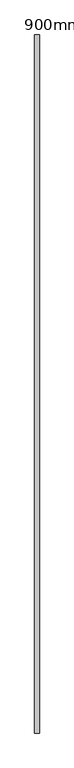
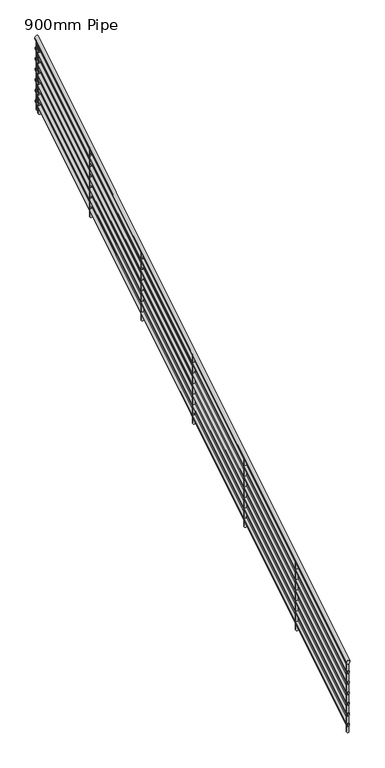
"""IFC4 building model written with IfcOpenShell, lengths in millimetres: railing geometry, 900mm Pipe."""

import ifcopenshell
import ifcopenshell.guid

model = None  # the IFC model being written
_history = None  # IfcOwnerHistory: only IFC2X3 demands one
_inside = {}  # id of a spatial element -> (the spatial element, [elements in it])
_under = {}  # id of a project, library or spatial element -> (it, [spatial elements below it])
_declared = {}  # id of a project -> (the project, [libraries it declares])
_typed = {}  # id of a type object -> (the type object, [elements of that type])
_made_of = {}  # id of a material, layer set ... -> (it, [elements and type objects made of it])


def new_model(schema):
    """Start an empty IFC model of exactly this schema.

    Asked for "IFC4X3", IfcOpenShell would pick the latest addendum, in which some entities
    have other attributes; the version numbers below select the first issue.
    IFC2X3 requires an IfcOwnerHistory on every rooted entity: one is made here for all.
    """
    global model, _history
    if schema == "IFC4X3":
        model = ifcopenshell.file(schema_version=(4, 3, 0, 0))
    else:
        model = ifcopenshell.file(schema=schema)
    _inside.clear()
    _under.clear()
    _declared.clear()
    _typed.clear()
    _made_of.clear()
    _history = None
    if model.schema == "IFC2X3":
        org = make("IfcOrganization", Name="unknown")
        user = make(
            "IfcPersonAndOrganization",
            ThePerson=make("IfcPerson", FamilyName="unknown"),
            TheOrganization=org,
        )
        app = make(
            "IfcApplication",
            ApplicationDeveloper=org,
            Version="unknown",
            ApplicationFullName="unknown",
            ApplicationIdentifier="unknown",
        )
        _history = make(
            "IfcOwnerHistory",
            OwningUser=user,
            OwningApplication=app,
            ChangeAction="ADDED",
            CreationDate=0,
        )
    return model


def make(cls, **values):
    """One entity of the class cls with the attributes given. An attribute that is None is left unset."""
    return model.create_entity(
        cls, **{name: value for name, value in values.items() if value is not None}
    )


def rooted(cls, **values):
    """An entity with a GlobalId (a new one), such as an element, a storey or a relation."""
    return make(cls, GlobalId=ifcopenshell.guid.new(), OwnerHistory=_history, **values)


def si_unit(unit_type, name, prefix=None):
    """IfcSIUnit, for example si_unit("LENGTHUNIT", "METRE", prefix="MILLI")."""
    return make("IfcSIUnit", UnitType=unit_type, Prefix=prefix, Name=name)


def assignment(units):
    """IfcUnitAssignment: the units of a project."""
    return None if units is None else make("IfcUnitAssignment", Units=units)


def point(xyz):
    """IfcCartesianPoint."""
    return None if xyz is None else make("IfcCartesianPoint", Coordinates=xyz)


def direction(xyz):
    """IfcDirection."""
    return None if xyz is None else make("IfcDirection", DirectionRatios=xyz)


def frame(location, z_axis=None, x_axis=None):
    """IfcAxis2Placement3D, a coordinate frame: its origin and axes. An axis left out is left unset."""
    return make(
        "IfcAxis2Placement3D",
        Location=point(location),
        Axis=direction(z_axis),
        RefDirection=direction(x_axis),
    )


def origin():
    """The frame at (0, 0, 0) with its axes left unset."""
    return frame((0.0, 0.0, 0.0))


def place(relative_to, where):
    """IfcLocalPlacement: puts the frame where relative to a parent placement (None: the world)."""
    return make(
        "IfcLocalPlacement", PlacementRelTo=relative_to, RelativePlacement=where
    )


def context(
    kind, dimensions, precision=None, world=None, true_north=None, identifier=None
):
    """IfcGeometricRepresentationContext, for example the 3D "Model" context."""
    return make(
        "IfcGeometricRepresentationContext",
        ContextIdentifier=identifier,
        ContextType=kind,
        CoordinateSpaceDimension=dimensions,
        Precision=precision,
        WorldCoordinateSystem=world,
        TrueNorth=true_north,
    )


def project(units=None, contexts=None):
    """IfcProject with its units and contexts."""
    return rooted(
        "IfcProject",
        Name="project",
        RepresentationContexts=contexts,
        UnitsInContext=assignment(units),
    )


def spatial(cls, under=None, at=None, **own):
    """A site, building, storey or space (cls), placed at a placement, below another one or the project."""
    s = rooted(cls, ObjectPlacement=at, **own)
    if under is not None:
        _under.setdefault(under.id(), (under, []))[1].append(s)
    return s


def ellipse_curve(where, semi_axis1, semi_axis2):
    """IfcEllipse in the frame where."""
    return make(
        "IfcEllipse", Position=where, SemiAxis1=semi_axis1, SemiAxis2=semi_axis2
    )


def shape(context_of_items, identifier, shape_type, items):
    """IfcShapeRepresentation: the items that make up one representation, for example the "Body"."""
    return make(
        "IfcShapeRepresentation",
        ContextOfItems=context_of_items,
        RepresentationIdentifier=identifier,
        RepresentationType=shape_type,
        Items=items,
    )


def source(mapping_origin, context_of_items, identifier, shape_type, items):
    """IfcRepresentationMap: a shape defined once, which mapped items show again and again."""
    return make(
        "IfcRepresentationMap",
        MappingOrigin=mapping_origin,
        MappedRepresentation=shape(context_of_items, identifier, shape_type, items),
    )


def transform(
    local_origin,
    x_axis=None,
    y_axis=None,
    z_axis=None,
    scale=None,
    scale2=None,
    scale3=None,
    uniform=True,
):
    """IfcCartesianTransformationOperator3D, or its non-uniform kind. x_axis, y_axis, z_axis: its Axis1, 2, 3."""
    if uniform:
        return make(
            "IfcCartesianTransformationOperator3D",
            Axis1=direction(x_axis),
            Axis2=direction(y_axis),
            LocalOrigin=point(local_origin),
            Scale=scale,
            Axis3=direction(z_axis),
        )
    return make(
        "IfcCartesianTransformationOperator3DnonUniform",
        Axis1=direction(x_axis),
        Axis2=direction(y_axis),
        LocalOrigin=point(local_origin),
        Scale=scale,
        Axis3=direction(z_axis),
        Scale2=scale2,
        Scale3=scale3,
    )


def mapped(mapping_source, mapping_target):
    """IfcMappedItem: shows the shape of a source again, moved by a transform."""
    return make(
        "IfcMappedItem", MappingSource=mapping_source, MappingTarget=mapping_target
    )


def made_of(thing, what):
    """Note that an element or type object is made of a material, layer set ...; save() writes the relation."""
    if what is not None:
        _made_of.setdefault(what.id(), (what, []))[1].append(thing)
    return thing


def element(
    cls,
    number,
    at=None,
    inside=None,
    cuts=None,
    type_object=None,
    material=None,
    context=None,
    identifier="Body",
    shape_type=None,
    held_by="IfcProductDefinitionShape",
    body=None,
    shapes=None,
    **own,
):
    """One element of the class cls, such as IfcWall. Its Tag is "e" and its number.

    at: its placement. inside: the storey or other place that contains it. cuts: it is an
    opening in that element (IfcRelVoidsElement). A single representation is given by context,
    identifier, shape_type and body (its items); several are given by shapes. held_by: the class
    of the entity that holds the representations. save() writes the other relations.
    """
    e = rooted(cls, Tag="e%d" % number, ObjectPlacement=at, **own)
    if body is not None:
        shapes = [shape(context, identifier, shape_type, body)]
    if shapes is not None:
        e.Representation = make(held_by, Representations=shapes)
    if inside is not None:
        _inside.setdefault(inside.id(), (inside, []))[1].append(e)
    if cuts is not None:
        rooted(
            "IfcRelVoidsElement", RelatingBuildingElement=cuts, RelatedOpeningElement=e
        )
    if type_object is not None:
        _typed.setdefault(type_object.id(), (type_object, []))[1].append(e)
    return made_of(e, material)


def aggregate(whole, parts):
    """IfcRelAggregates: a whole, such as a stair, and the parts it consists of."""
    return rooted("IfcRelAggregates", RelatingObject=whole, RelatedObjects=parts)


def save(model, path):
    """Write the relations noted so far, then the file.

    IfcRelAggregates (storeys below a building ...), IfcRelContainedInSpatialStructure (elements
    in a storey), IfcRelDefinesByType, IfcRelAssociatesMaterial and IfcRelDeclares: one each for
    every whole, place, type object, material and project.
    """
    for whole, parts in _under.values():
        aggregate(whole, parts)
    for where, things in _inside.values():
        rooted(
            "IfcRelContainedInSpatialStructure",
            RelatedElements=things,
            RelatingStructure=where,
        )
    for kind, things in _typed.values():
        rooted("IfcRelDefinesByType", RelatedObjects=things, RelatingType=kind)
    for what, things in _made_of.values():
        rooted("IfcRelAssociatesMaterial", RelatedObjects=things, RelatingMaterial=what)
    for by, libraries in _declared.values():
        rooted("IfcRelDeclares", RelatingContext=by, RelatedDefinitions=libraries)
    model.write(path)


def plane_surface(at):
    """IfcPlane: the flat surface through the origin of the frame at, square to its z axis."""
    return make("IfcPlane", Position=at)


def cylinder_surface(at, radius):
    """IfcCylindricalSurface: all points at the distance radius from the z axis of the frame at."""
    return make("IfcCylindricalSurface", Position=at, Radius=radius)


def advanced_brep(points, edges, surfaces, faces):
    """IfcAdvancedBrep: a solid bounded by faces that lie on surfaces and meet in shared edges.

    An edge is (start, end): straight between two places in points (the first is 0);
    or (start, end, curve); or (start, end, curve, False) where it runs against its curve.
    A face is (place in surfaces, loops), or (place, loops, False) where it looks against
    its surface's normal. A loop lists edges by number (the first is 1), with a minus sign
    where the edge is run from its end to its start. The first loop is the outer one.
    """
    corners = [point(p) for p in points]
    vertices = [make("IfcVertexPoint", VertexGeometry=c) for c in corners]
    made = []
    for start, end, *more in edges:
        made.append(
            make(
                "IfcEdgeCurve",
                EdgeStart=vertices[start],
                EdgeEnd=vertices[end],
                EdgeGeometry=more[0] if more else make("IfcPolyline", Points=[corners[start], corners[end]]),
                SameSense=more[1] if len(more) > 1 else True,
            )
        )
    hull = []
    for where, loops, *sense in faces:
        bounds = []
        for j, loop in enumerate(loops):
            ring = [make("IfcOrientedEdge", EdgeElement=made[abs(k) - 1], Orientation=k > 0) for k in loop]
            bounds.append(
                make(
                    "IfcFaceOuterBound" if j == 0 else "IfcFaceBound",
                    Bound=make("IfcEdgeLoop", EdgeList=ring),
                    Orientation=True,
                )
            )
        hull.append(make("IfcAdvancedFace", Bounds=bounds, FaceSurface=surfaces[where], SameSense=sense[0] if sense else True))
    return make("IfcAdvancedBrep", Outer=make("IfcClosedShell", CfsFaces=hull))


def railing_900mm_pipe_2b441174(model_context):
    return source(origin(), model_context, "Body", "AdvancedBrep", [
        advanced_brep(
        [(4541.7758541, -3889.7600263, 1046.0688642), (4501.7758541, -3889.7600263, 1046.0688642), (4541.7758541, 2160.2399737, 4776.5036468), (4501.7758541, 2160.2399737, 4776.5036468)],
        [
            (0, 1, ellipse_curve(frame((4521.7758541, -3889.7600263, 1046.0688642), z_axis=(0.0, -1.0, 0.0), x_axis=(0.0, 0.0, -1.0)), 23.4963532, 20.0)),
            (1, 0, ellipse_curve(frame((4521.7758541, -3889.7600263, 1046.0688642), z_axis=(0.0, -1.0, 0.0), x_axis=(0.0, 0.0, -1.0)), 23.4963532, 20.0)),
            (2, 3, ellipse_curve(frame((4521.7758541, 2160.2399737, 4776.5036468), z_axis=(0.0, 1.0, 0.0), x_axis=(0.0, 0.0, -1.0)), 23.4963532, 20.0)),
            (3, 2, ellipse_curve(frame((4521.7758541, 2160.2399737, 4776.5036468), z_axis=(0.0, 1.0, 0.0), x_axis=(0.0, 0.0, -1.0)), 23.4963532, 20.0)),
            (0, 2),
            (3, 1),
        ],
        [
            plane_surface(frame((4521.7758541, -3889.7600263, 1069.5652174), z_axis=(0.0, -1.0, 0.0), x_axis=(0.0, 0.0, 1.0))),
            plane_surface(frame((4521.7758541, 2160.2399737, 4800.0), z_axis=(0.0, 1.0, 0.0), x_axis=(0.0, 0.0, 1.0))),
            cylinder_surface(frame((4521.7758541, -3879.2630647, 1052.541299), z_axis=(0.0, -0.851195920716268, -0.524848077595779), x_axis=(-1.0, 0.0, 0.0)), 20.0),
        ],
        [
            (0, [[1, 2]]),
            (1, [[3, 4]]),
            (2, [[-1, 5, -4, 6]]),
            (2, [[-2, -6, -3, -5]]),
        ],
    ),
        advanced_brep(
        [(4536.7758541, -3889.7600263, 926.9429525), (4506.7758541, -3889.7600263, 926.9429525), (4536.7758541, 2160.2399737, 4657.3777351), (4506.7758541, 2160.2399737, 4657.3777351)],
        [
            (0, 1, ellipse_curve(frame((4521.7758541, -3889.7600263, 926.9429525), z_axis=(0.0, -1.0, 0.0), x_axis=(0.0, 0.0, -1.0)), 17.6222649, 15.0)),
            (1, 0, ellipse_curve(frame((4521.7758541, -3889.7600263, 926.9429525), z_axis=(0.0, -1.0, 0.0), x_axis=(0.0, 0.0, -1.0)), 17.6222649, 15.0)),
            (2, 3, ellipse_curve(frame((4521.7758541, 2160.2399737, 4657.3777351), z_axis=(0.0, 1.0, 0.0), x_axis=(0.0, 0.0, -1.0)), 17.6222649, 15.0)),
            (3, 2, ellipse_curve(frame((4521.7758541, 2160.2399737, 4657.3777351), z_axis=(0.0, 1.0, 0.0), x_axis=(0.0, 0.0, -1.0)), 17.6222649, 15.0)),
            (0, 2),
            (3, 1),
        ],
        [
            plane_surface(frame((4521.7758541, -3889.7600263, 944.5652174), z_axis=(0.0, -1.0, 0.0), x_axis=(0.0, 0.0, 1.0))),
            plane_surface(frame((4521.7758541, 2160.2399737, 4675.0), z_axis=(0.0, 1.0, 0.0), x_axis=(0.0, 0.0, 1.0))),
            cylinder_surface(frame((4521.7758541, -3881.8873051, 931.7972786), z_axis=(0.0, -0.851195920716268, -0.524848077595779), x_axis=(-1.0, 0.0, 0.0)), 15.0),
        ],
        [
            (0, [[1, 2]]),
            (1, [[3, 4]]),
            (2, [[-1, 5, -4, 6]]),
            (2, [[-2, -6, -3, -5]]),
        ],
    ),
        advanced_brep(
        [(4536.7758541, -3889.7600263, 801.9429525), (4506.7758541, -3889.7600263, 801.9429525), (4536.7758541, 2160.2399737, 4532.3777351), (4506.7758541, 2160.2399737, 4532.3777351)],
        [
            (0, 1, ellipse_curve(frame((4521.7758541, -3889.7600263, 801.9429525), z_axis=(0.0, -1.0, 0.0), x_axis=(0.0, 0.0, -1.0)), 17.6222649, 15.0)),
            (1, 0, ellipse_curve(frame((4521.7758541, -3889.7600263, 801.9429525), z_axis=(0.0, -1.0, 0.0), x_axis=(0.0, 0.0, -1.0)), 17.6222649, 15.0)),
            (2, 3, ellipse_curve(frame((4521.7758541, 2160.2399737, 4532.3777351), z_axis=(0.0, 1.0, 0.0), x_axis=(0.0, 0.0, -1.0)), 17.6222649, 15.0)),
            (3, 2, ellipse_curve(frame((4521.7758541, 2160.2399737, 4532.3777351), z_axis=(0.0, 1.0, 0.0), x_axis=(0.0, 0.0, -1.0)), 17.6222649, 15.0)),
            (0, 2),
            (3, 1),
        ],
        [
            plane_surface(frame((4521.7758541, -3889.7600263, 819.5652174), z_axis=(0.0, -1.0, 0.0), x_axis=(0.0, 0.0, 1.0))),
            plane_surface(frame((4521.7758541, 2160.2399737, 4550.0), z_axis=(0.0, 1.0, 0.0), x_axis=(0.0, 0.0, 1.0))),
            cylinder_surface(frame((4521.7758541, -3881.8873051, 806.7972786), z_axis=(0.0, -0.851195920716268, -0.524848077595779), x_axis=(-1.0, 0.0, 0.0)), 15.0),
        ],
        [
            (0, [[1, 2]]),
            (1, [[3, 4]]),
            (2, [[-1, 5, -4, 6]]),
            (2, [[-2, -6, -3, -5]]),
        ],
    ),
        advanced_brep(
        [(4536.7758541, -3889.7600263, 676.9429525), (4506.7758541, -3889.7600263, 676.9429525), (4536.7758541, 2160.2399737, 4407.3777351), (4506.7758541, 2160.2399737, 4407.3777351)],
        [
            (0, 1, ellipse_curve(frame((4521.7758541, -3889.7600263, 676.9429525), z_axis=(0.0, -1.0, 0.0), x_axis=(0.0, 0.0, -1.0)), 17.6222649, 15.0)),
            (1, 0, ellipse_curve(frame((4521.7758541, -3889.7600263, 676.9429525), z_axis=(0.0, -1.0, 0.0), x_axis=(0.0, 0.0, -1.0)), 17.6222649, 15.0)),
            (2, 3, ellipse_curve(frame((4521.7758541, 2160.2399737, 4407.3777351), z_axis=(0.0, 1.0, 0.0), x_axis=(0.0, 0.0, -1.0)), 17.6222649, 15.0)),
            (3, 2, ellipse_curve(frame((4521.7758541, 2160.2399737, 4407.3777351), z_axis=(0.0, 1.0, 0.0), x_axis=(0.0, 0.0, -1.0)), 17.6222649, 15.0)),
            (0, 2),
            (3, 1),
        ],
        [
            plane_surface(frame((4521.7758541, -3889.7600263, 694.5652174), z_axis=(0.0, -1.0, 0.0), x_axis=(0.0, 0.0, 1.0))),
            plane_surface(frame((4521.7758541, 2160.2399737, 4425.0), z_axis=(0.0, 1.0, 0.0), x_axis=(0.0, 0.0, 1.0))),
            cylinder_surface(frame((4521.7758541, -3881.8873051, 681.7972786), z_axis=(0.0, -0.851195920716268, -0.524848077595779), x_axis=(-1.0, 0.0, 0.0)), 15.0),
        ],
        [
            (0, [[1, 2]]),
            (1, [[3, 4]]),
            (2, [[-1, 5, -4, 6]]),
            (2, [[-2, -6, -3, -5]]),
        ],
    ),
        advanced_brep(
        [(4536.7758541, -3889.7600263, 551.9429525), (4506.7758541, -3889.7600263, 551.9429525), (4536.7758541, 2160.2399737, 4282.3777351), (4506.7758541, 2160.2399737, 4282.3777351)],
        [
            (0, 1, ellipse_curve(frame((4521.7758541, -3889.7600263, 551.9429525), z_axis=(0.0, -1.0, 0.0), x_axis=(0.0, 0.0, -1.0)), 17.6222649, 15.0)),
            (1, 0, ellipse_curve(frame((4521.7758541, -3889.7600263, 551.9429525), z_axis=(0.0, -1.0, 0.0), x_axis=(0.0, 0.0, -1.0)), 17.6222649, 15.0)),
            (2, 3, ellipse_curve(frame((4521.7758541, 2160.2399737, 4282.3777351), z_axis=(0.0, 1.0, 0.0), x_axis=(0.0, 0.0, -1.0)), 17.6222649, 15.0)),
            (3, 2, ellipse_curve(frame((4521.7758541, 2160.2399737, 4282.3777351), z_axis=(0.0, 1.0, 0.0), x_axis=(0.0, 0.0, -1.0)), 17.6222649, 15.0)),
            (0, 2),
            (3, 1),
        ],
        [
            plane_surface(frame((4521.7758541, -3889.7600263, 569.5652174), z_axis=(0.0, -1.0, 0.0), x_axis=(0.0, 0.0, 1.0))),
            plane_surface(frame((4521.7758541, 2160.2399737, 4300.0), z_axis=(0.0, 1.0, 0.0), x_axis=(0.0, 0.0, 1.0))),
            cylinder_surface(frame((4521.7758541, -3881.8873051, 556.7972786), z_axis=(0.0, -0.851195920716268, -0.524848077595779), x_axis=(-1.0, 0.0, 0.0)), 15.0),
        ],
        [
            (0, [[1, 2]]),
            (1, [[3, 4]]),
            (2, [[-1, 5, -4, 6]]),
            (2, [[-2, -6, -3, -5]]),
        ],
    ),
        advanced_brep(
        [(4536.7758541, -3889.7600263, 426.9429525), (4506.7758541, -3889.7600263, 426.9429525), (4536.7758541, 2160.2399737, 4157.3777351), (4506.7758541, 2160.2399737, 4157.3777351)],
        [
            (0, 1, ellipse_curve(frame((4521.7758541, -3889.7600263, 426.9429525), z_axis=(0.0, -1.0, 0.0), x_axis=(0.0, 0.0, -1.0)), 17.6222649, 15.0)),
            (1, 0, ellipse_curve(frame((4521.7758541, -3889.7600263, 426.9429525), z_axis=(0.0, -1.0, 0.0), x_axis=(0.0, 0.0, -1.0)), 17.6222649, 15.0)),
            (2, 3, ellipse_curve(frame((4521.7758541, 2160.2399737, 4157.3777351), z_axis=(0.0, 1.0, 0.0), x_axis=(0.0, 0.0, -1.0)), 17.6222649, 15.0)),
            (3, 2, ellipse_curve(frame((4521.7758541, 2160.2399737, 4157.3777351), z_axis=(0.0, 1.0, 0.0), x_axis=(0.0, 0.0, -1.0)), 17.6222649, 15.0)),
            (0, 2),
            (3, 1),
        ],
        [
            plane_surface(frame((4521.7758541, -3889.7600263, 444.5652174), z_axis=(0.0, -1.0, 0.0), x_axis=(0.0, 0.0, 1.0))),
            plane_surface(frame((4521.7758541, 2160.2399737, 4175.0), z_axis=(0.0, 1.0, 0.0), x_axis=(0.0, 0.0, 1.0))),
            cylinder_surface(frame((4521.7758541, -3881.8873051, 431.7972786), z_axis=(0.0, -0.851195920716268, -0.524848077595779), x_axis=(-1.0, 0.0, 0.0)), 15.0),
        ],
        [
            (0, [[1, 2]]),
            (1, [[3, 4]]),
            (2, [[-1, 5, -4, 6]]),
            (2, [[-2, -6, -3, -5]]),
        ],
    ),
        advanced_brep(
        [(4536.7758541, -3889.7600263, 301.9429525), (4506.7758541, -3889.7600263, 301.9429525), (4536.7758541, 2160.2399737, 4032.3777351), (4506.7758541, 2160.2399737, 4032.3777351)],
        [
            (0, 1, ellipse_curve(frame((4521.7758541, -3889.7600263, 301.9429525), z_axis=(0.0, -1.0, 0.0), x_axis=(0.0, 0.0, -1.0)), 17.6222649, 15.0)),
            (1, 0, ellipse_curve(frame((4521.7758541, -3889.7600263, 301.9429525), z_axis=(0.0, -1.0, 0.0), x_axis=(0.0, 0.0, -1.0)), 17.6222649, 15.0)),
            (2, 3, ellipse_curve(frame((4521.7758541, 2160.2399737, 4032.3777351), z_axis=(0.0, 1.0, 0.0), x_axis=(0.0, 0.0, -1.0)), 17.6222649, 15.0)),
            (3, 2, ellipse_curve(frame((4521.7758541, 2160.2399737, 4032.3777351), z_axis=(0.0, 1.0, 0.0), x_axis=(0.0, 0.0, -1.0)), 17.6222649, 15.0)),
            (0, 2),
            (3, 1),
        ],
        [
            plane_surface(frame((4521.7758541, -3889.7600263, 319.5652174), z_axis=(0.0, -1.0, 0.0), x_axis=(0.0, 0.0, 1.0))),
            plane_surface(frame((4521.7758541, 2160.2399737, 4050.0), z_axis=(0.0, 1.0, 0.0), x_axis=(0.0, 0.0, 1.0))),
            cylinder_surface(frame((4521.7758541, -3881.8873051, 306.7972786), z_axis=(0.0, -0.851195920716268, -0.524848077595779), x_axis=(-1.0, 0.0, 0.0)), 15.0),
        ],
        [
            (0, [[1, 2]]),
            (1, [[3, 4]]),
            (2, [[-1, 5, -4, 6]]),
            (2, [[-2, -6, -3, -5]]),
        ],
    ),
        advanced_brep(
        [(4509.2758541, 2110.2399737, 4722.1772541), (4534.2758541, 2110.2399737, 4722.1772541), (4534.2758541, 2110.2399737, 3913.2082186), (4509.2758541, 2110.2399737, 3913.2082186)],
        [
            (0, 1, ellipse_curve(frame((4521.7758541, 2110.2399737, 4722.1772541), z_axis=(0.0, 0.5248480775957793, -0.8511959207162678), x_axis=(0.0, 0.8511959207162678, 0.524848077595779)), 14.6852208, 12.5)),
            (1, 2),
            (2, 3, ellipse_curve(frame((4521.7758541, 2110.2399737, 3913.2082186), z_axis=(0.0, -0.5248480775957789, 0.851195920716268), x_axis=(0.0, 0.851195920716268, 0.5248480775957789)), 14.6852208, 12.5)),
            (3, 0),
            (3, 2, ellipse_curve(frame((4521.7758541, 2110.2399737, 3913.2082186), z_axis=(0.0, -0.5248480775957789, 0.851195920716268), x_axis=(0.0, 0.851195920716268, 0.5248480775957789)), 14.6852208, 12.5)),
            (1, 0, ellipse_curve(frame((4521.7758541, 2110.2399737, 4722.1772541), z_axis=(0.0, 0.5248480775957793, -0.8511959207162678), x_axis=(0.0, 0.8511959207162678, 0.524848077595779)), 14.6852208, 12.5)),
        ],
        [
            cylinder_surface(frame((4521.7758541, 2110.2399737, 3813.2082186), z_axis=(0.0, 0.0, 1.0), x_axis=(1.0, 0.0, 0.0)), 12.5),
            plane_surface(frame((4546.7758541, 2135.2399737, 4737.5922738), z_axis=(0.0, -0.5248480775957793, 0.8511959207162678), x_axis=(-1.0, 0.0, 0.0))),
            plane_surface(frame((4546.7758541, 2085.2399737, 3897.7931988), z_axis=(0.0, 0.5248480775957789, -0.851195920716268), x_axis=(-1.0, 0.0, 0.0))),
        ],
        [
            (0, [[1, 2, 3, 4]]),
            (0, [[5, -2, 6, -4]]),
            (1, [[-6, -1]]),
            (2, [[-5, -3]]),
        ],
    ),
        advanced_brep(
        [(4509.2758541, 1110.2399737, 4105.5764635), (4534.2758541, 1110.2399737, 4105.5764635), (4534.2758541, 1110.2399737, 3296.6074281), (4509.2758541, 1110.2399737, 3296.6074281)],
        [
            (0, 1, ellipse_curve(frame((4521.7758541, 1110.2399737, 4105.5764635), z_axis=(0.0, 0.5248480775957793, -0.8511959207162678), x_axis=(0.0, 0.8511959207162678, 0.524848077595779)), 14.6852208, 12.5)),
            (1, 2),
            (2, 3, ellipse_curve(frame((4521.7758541, 1110.2399737, 3296.6074281), z_axis=(0.0, -0.5248480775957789, 0.851195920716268), x_axis=(0.0, 0.851195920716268, 0.5248480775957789)), 14.6852208, 12.5)),
            (3, 0),
            (3, 2, ellipse_curve(frame((4521.7758541, 1110.2399737, 3296.6074281), z_axis=(0.0, -0.5248480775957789, 0.851195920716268), x_axis=(0.0, 0.851195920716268, 0.5248480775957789)), 14.6852208, 12.5)),
            (1, 0, ellipse_curve(frame((4521.7758541, 1110.2399737, 4105.5764635), z_axis=(0.0, 0.5248480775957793, -0.8511959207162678), x_axis=(0.0, 0.8511959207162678, 0.524848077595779)), 14.6852208, 12.5)),
        ],
        [
            cylinder_surface(frame((4521.7758541, 1110.2399737, 3196.6074281), z_axis=(0.0, 0.0, 1.0), x_axis=(1.0, 0.0, 0.0)), 12.5),
            plane_surface(frame((4546.7758541, 1135.2399737, 4120.9914833), z_axis=(0.0, -0.5248480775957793, 0.8511959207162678), x_axis=(-1.0, 0.0, 0.0))),
            plane_surface(frame((4546.7758541, 1085.2399737, 3281.1924083), z_axis=(0.0, 0.5248480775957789, -0.851195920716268), x_axis=(-1.0, 0.0, 0.0))),
        ],
        [
            (0, [[1, 2, 3, 4]]),
            (0, [[5, -2, 6, -4]]),
            (1, [[-6, -1]]),
            (2, [[-5, -3]]),
        ],
    ),
        advanced_brep(
        [(4509.2758541, 110.2399737, 3488.975673), (4534.2758541, 110.2399737, 3488.975673), (4534.2758541, 110.2399737, 2680.0066376), (4509.2758541, 110.2399737, 2680.0066376)],
        [
            (0, 1, ellipse_curve(frame((4521.7758541, 110.2399737, 3488.975673), z_axis=(0.0, 0.5248480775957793, -0.8511959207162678), x_axis=(0.0, 0.8511959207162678, 0.524848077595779)), 14.6852208, 12.5)),
            (1, 2),
            (2, 3, ellipse_curve(frame((4521.7758541, 110.2399737, 2680.0066376), z_axis=(0.0, -0.5248480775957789, 0.851195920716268), x_axis=(0.0, 0.851195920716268, 0.5248480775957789)), 14.6852208, 12.5)),
            (3, 0),
            (3, 2, ellipse_curve(frame((4521.7758541, 110.2399737, 2680.0066376), z_axis=(0.0, -0.5248480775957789, 0.851195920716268), x_axis=(0.0, 0.851195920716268, 0.5248480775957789)), 14.6852208, 12.5)),
            (1, 0, ellipse_curve(frame((4521.7758541, 110.2399737, 3488.975673), z_axis=(0.0, 0.5248480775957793, -0.8511959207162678), x_axis=(0.0, 0.8511959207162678, 0.524848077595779)), 14.6852208, 12.5)),
        ],
        [
            cylinder_surface(frame((4521.7758541, 110.2399737, 2580.0066376), z_axis=(0.0, 0.0, 1.0), x_axis=(1.0, 0.0, 0.0)), 12.5),
            plane_surface(frame((4546.7758541, 135.2399737, 3504.3906928), z_axis=(0.0, -0.5248480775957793, 0.8511959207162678), x_axis=(-1.0, 0.0, 0.0))),
            plane_surface(frame((4546.7758541, 85.2399737, 2664.5916178), z_axis=(0.0, 0.5248480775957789, -0.851195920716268), x_axis=(-1.0, 0.0, 0.0))),
        ],
        [
            (0, [[1, 2, 3, 4]]),
            (0, [[5, -2, 6, -4]]),
            (1, [[-6, -1]]),
            (2, [[-5, -3]]),
        ],
    ),
        advanced_brep(
        [(4509.2758541, -889.7600263, 2872.3748825), (4534.2758541, -889.7600263, 2872.3748825), (4534.2758541, -889.7600263, 2063.4058471), (4509.2758541, -889.7600263, 2063.4058471)],
        [
            (0, 1, ellipse_curve(frame((4521.7758541, -889.7600263, 2872.3748825), z_axis=(0.0, 0.5248480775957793, -0.8511959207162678), x_axis=(0.0, 0.8511959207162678, 0.524848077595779)), 14.6852208, 12.5)),
            (1, 2),
            (2, 3, ellipse_curve(frame((4521.7758541, -889.7600263, 2063.4058471), z_axis=(0.0, -0.5248480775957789, 0.851195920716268), x_axis=(0.0, 0.851195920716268, 0.5248480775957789)), 14.6852208, 12.5)),
            (3, 0),
            (3, 2, ellipse_curve(frame((4521.7758541, -889.7600263, 2063.4058471), z_axis=(0.0, -0.5248480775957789, 0.851195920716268), x_axis=(0.0, 0.851195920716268, 0.5248480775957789)), 14.6852208, 12.5)),
            (1, 0, ellipse_curve(frame((4521.7758541, -889.7600263, 2872.3748825), z_axis=(0.0, 0.5248480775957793, -0.8511959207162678), x_axis=(0.0, 0.8511959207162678, 0.524848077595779)), 14.6852208, 12.5)),
        ],
        [
            cylinder_surface(frame((4521.7758541, -889.7600263, 1963.4058471), z_axis=(0.0, 0.0, 1.0), x_axis=(1.0, 0.0, 0.0)), 12.5),
            plane_surface(frame((4546.7758541, -864.7600263, 2887.7899023), z_axis=(0.0, -0.5248480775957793, 0.8511959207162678), x_axis=(-1.0, 0.0, 0.0))),
            plane_surface(frame((4546.7758541, -914.7600263, 2047.9908273), z_axis=(0.0, 0.5248480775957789, -0.851195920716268), x_axis=(-1.0, 0.0, 0.0))),
        ],
        [
            (0, [[1, 2, 3, 4]]),
            (0, [[5, -2, 6, -4]]),
            (1, [[-6, -1]]),
            (2, [[-5, -3]]),
        ],
    ),
        advanced_brep(
        [(4509.2758541, -1889.7600263, 2255.774092), (4534.2758541, -1889.7600263, 2255.774092), (4534.2758541, -1889.7600263, 1446.8050565), (4509.2758541, -1889.7600263, 1446.8050565)],
        [
            (0, 1, ellipse_curve(frame((4521.7758541, -1889.7600263, 2255.774092), z_axis=(0.0, 0.5248480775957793, -0.8511959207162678), x_axis=(0.0, 0.8511959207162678, 0.524848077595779)), 14.6852208, 12.5)),
            (1, 2),
            (2, 3, ellipse_curve(frame((4521.7758541, -1889.7600263, 1446.8050565), z_axis=(0.0, -0.5248480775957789, 0.851195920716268), x_axis=(0.0, 0.851195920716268, 0.5248480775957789)), 14.6852208, 12.5)),
            (3, 0),
            (3, 2, ellipse_curve(frame((4521.7758541, -1889.7600263, 1446.8050565), z_axis=(0.0, -0.5248480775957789, 0.851195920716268), x_axis=(0.0, 0.851195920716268, 0.5248480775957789)), 14.6852208, 12.5)),
            (1, 0, ellipse_curve(frame((4521.7758541, -1889.7600263, 2255.774092), z_axis=(0.0, 0.5248480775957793, -0.8511959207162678), x_axis=(0.0, 0.8511959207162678, 0.524848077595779)), 14.6852208, 12.5)),
        ],
        [
            cylinder_surface(frame((4521.7758541, -1889.7600263, 1346.8050565), z_axis=(0.0, 0.0, 1.0), x_axis=(1.0, 0.0, 0.0)), 12.5),
            plane_surface(frame((4546.7758541, -1864.7600263, 2271.1891118), z_axis=(0.0, -0.5248480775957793, 0.8511959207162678), x_axis=(-1.0, 0.0, 0.0))),
            plane_surface(frame((4546.7758541, -1914.7600263, 1431.3900368), z_axis=(0.0, 0.5248480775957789, -0.851195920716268), x_axis=(-1.0, 0.0, 0.0))),
        ],
        [
            (0, [[1, 2, 3, 4]]),
            (0, [[5, -2, 6, -4]]),
            (1, [[-6, -1]]),
            (2, [[-5, -3]]),
        ],
    ),
        advanced_brep(
        [(4509.2758541, -2889.7600263, 1639.1733015), (4534.2758541, -2889.7600263, 1639.1733015), (4534.2758541, -2889.7600263, 830.204266), (4509.2758541, -2889.7600263, 830.204266)],
        [
            (0, 1, ellipse_curve(frame((4521.7758541, -2889.7600263, 1639.1733015), z_axis=(0.0, 0.5248480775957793, -0.8511959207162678), x_axis=(0.0, 0.8511959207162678, 0.524848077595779)), 14.6852208, 12.5)),
            (1, 2),
            (2, 3, ellipse_curve(frame((4521.7758541, -2889.7600263, 830.204266), z_axis=(0.0, -0.5248480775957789, 0.851195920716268), x_axis=(0.0, 0.851195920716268, 0.5248480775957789)), 14.6852208, 12.5)),
            (3, 0),
            (3, 2, ellipse_curve(frame((4521.7758541, -2889.7600263, 830.204266), z_axis=(0.0, -0.5248480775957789, 0.851195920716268), x_axis=(0.0, 0.851195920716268, 0.5248480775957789)), 14.6852208, 12.5)),
            (1, 0, ellipse_curve(frame((4521.7758541, -2889.7600263, 1639.1733015), z_axis=(0.0, 0.5248480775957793, -0.8511959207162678), x_axis=(0.0, 0.8511959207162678, 0.524848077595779)), 14.6852208, 12.5)),
        ],
        [
            cylinder_surface(frame((4521.7758541, -2889.7600263, 730.204266), z_axis=(0.0, 0.0, 1.0), x_axis=(1.0, 0.0, 0.0)), 12.5),
            plane_surface(frame((4546.7758541, -2864.7600263, 1654.5883213), z_axis=(0.0, -0.5248480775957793, 0.8511959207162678), x_axis=(-1.0, 0.0, 0.0))),
            plane_surface(frame((4546.7758541, -2914.7600263, 814.7892463), z_axis=(0.0, 0.5248480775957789, -0.851195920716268), x_axis=(-1.0, 0.0, 0.0))),
        ],
        [
            (0, [[1, 2, 3, 4]]),
            (0, [[5, -2, 6, -4]]),
            (1, [[-6, -1]]),
            (2, [[-5, -3]]),
        ],
    ),
        advanced_brep(
        [(4509.2758541, 2147.7399737, 4745.2997837), (4534.2758541, 2147.7399737, 4745.2997837), (4534.2758541, 2147.7399737, 3936.3307482), (4509.2758541, 2147.7399737, 3936.3307482)],
        [
            (0, 1, ellipse_curve(frame((4521.7758541, 2147.7399737, 4745.2997837), z_axis=(0.0, 0.5248480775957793, -0.8511959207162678), x_axis=(0.0, 0.8511959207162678, 0.524848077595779)), 14.6852208, 12.5)),
            (1, 2),
            (2, 3, ellipse_curve(frame((4521.7758541, 2147.7399737, 3936.3307482), z_axis=(0.0, -0.5248480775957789, 0.851195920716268), x_axis=(0.0, 0.851195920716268, 0.5248480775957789)), 14.6852208, 12.5)),
            (3, 0),
            (3, 2, ellipse_curve(frame((4521.7758541, 2147.7399737, 3936.3307482), z_axis=(0.0, -0.5248480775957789, 0.851195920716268), x_axis=(0.0, 0.851195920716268, 0.5248480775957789)), 14.6852208, 12.5)),
            (1, 0, ellipse_curve(frame((4521.7758541, 2147.7399737, 4745.2997837), z_axis=(0.0, 0.5248480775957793, -0.8511959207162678), x_axis=(0.0, 0.8511959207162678, 0.524848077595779)), 14.6852208, 12.5)),
        ],
        [
            cylinder_surface(frame((4521.7758541, 2147.7399737, 3836.3307482), z_axis=(0.0, 0.0, 1.0), x_axis=(1.0, 0.0, 0.0)), 12.5),
            plane_surface(frame((4546.7758541, 2172.7399737, 4760.7148035), z_axis=(0.0, -0.5248480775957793, 0.8511959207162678), x_axis=(-1.0, 0.0, 0.0))),
            plane_surface(frame((4546.7758541, 2122.7399737, 3920.9157285), z_axis=(0.0, 0.5248480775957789, -0.851195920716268), x_axis=(-1.0, 0.0, 0.0))),
        ],
        [
            (0, [[1, 2, 3, 4]]),
            (0, [[5, -2, 6, -4]]),
            (1, [[-6, -1]]),
            (2, [[-5, -3]]),
        ],
    ),
        advanced_brep(
        [(4509.2758541, -3877.2600263, 1030.2800209), (4534.2758541, -3877.2600263, 1030.2800209), (4534.2758541, -3877.2600263, 221.3109854), (4509.2758541, -3877.2600263, 221.3109854)],
        [
            (0, 1, ellipse_curve(frame((4521.7758541, -3877.2600263, 1030.2800209), z_axis=(0.0, 0.5248480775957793, -0.8511959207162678), x_axis=(0.0, 0.8511959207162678, 0.524848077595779)), 14.6852208, 12.5)),
            (1, 2),
            (2, 3, ellipse_curve(frame((4521.7758541, -3877.2600263, 221.3109854), z_axis=(0.0, -0.5248480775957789, 0.851195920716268), x_axis=(0.0, 0.851195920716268, 0.5248480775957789)), 14.6852208, 12.5)),
            (3, 0),
            (3, 2, ellipse_curve(frame((4521.7758541, -3877.2600263, 221.3109854), z_axis=(0.0, -0.5248480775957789, 0.851195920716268), x_axis=(0.0, 0.851195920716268, 0.5248480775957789)), 14.6852208, 12.5)),
            (1, 0, ellipse_curve(frame((4521.7758541, -3877.2600263, 1030.2800209), z_axis=(0.0, 0.5248480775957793, -0.8511959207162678), x_axis=(0.0, 0.8511959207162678, 0.524848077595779)), 14.6852208, 12.5)),
        ],
        [
            cylinder_surface(frame((4521.7758541, -3877.2600263, 121.3109854), z_axis=(0.0, 0.0, 1.0), x_axis=(1.0, 0.0, 0.0)), 12.5),
            plane_surface(frame((4546.7758541, -3852.2600263, 1045.6950406), z_axis=(0.0, -0.5248480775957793, 0.8511959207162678), x_axis=(-1.0, 0.0, 0.0))),
            plane_surface(frame((4546.7758541, -3902.2600263, 205.8959656), z_axis=(0.0, 0.5248480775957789, -0.851195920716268), x_axis=(-1.0, 0.0, 0.0))),
        ],
        [
            (0, [[1, 2, 3, 4]]),
            (0, [[5, -2, 6, -4]]),
            (1, [[-6, -1]]),
            (2, [[-5, -3]]),
        ],
    ),
    ])


if __name__ == "__main__":
    model = new_model("IFC4")
    model_context = context("Model", 3, world=origin())
    ifc_project = project(units=[si_unit("LENGTHUNIT", "METRE", prefix="MILLI")], contexts=[model_context])
    site = spatial("IfcSite", under=ifc_project)
    building = spatial("IfcBuilding", under=site)
    placement = place(None, origin())
    railing_900mm_pipe_shape = railing_900mm_pipe_2b441174(model_context)
    element("IfcRailing", 1, ObjectType="900mm Pipe", at=placement, inside=building, context=model_context, shape_type="MappedRepresentation", body=[
        mapped(railing_900mm_pipe_shape, transform((0.0, 0.0, 0.0), x_axis=(1.0, 0.0, 0.0), y_axis=(0.0, 1.0, 0.0), z_axis=(0.0, 0.0, 1.0))),
    ])
    save(model, "model.ifc")
